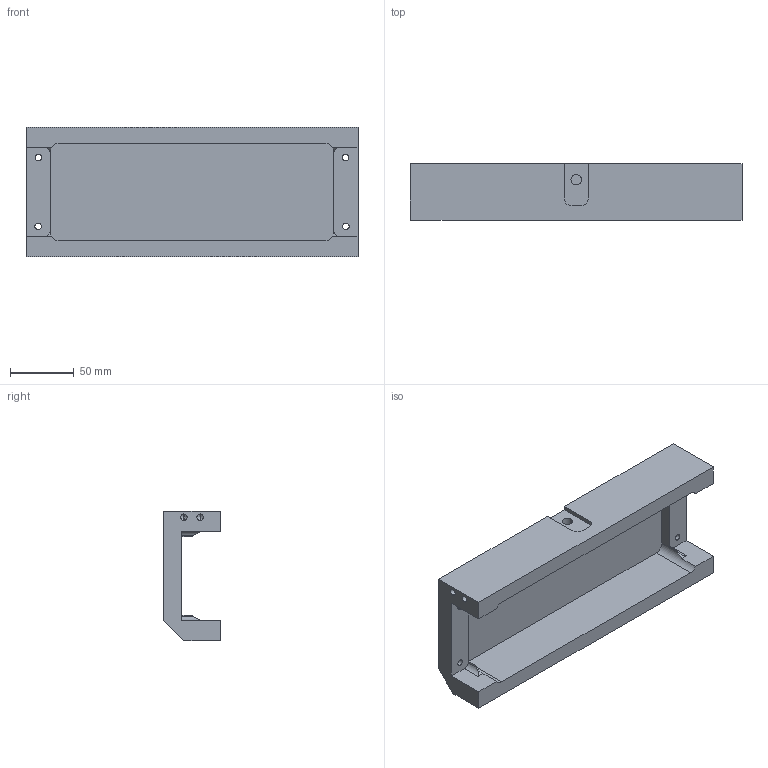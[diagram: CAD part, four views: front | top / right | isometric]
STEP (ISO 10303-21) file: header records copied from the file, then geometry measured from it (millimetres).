
FILE_DESCRIPTION (( 'STEP AP203' ), '1' );
FILE_NAME ('269-18-203.STEP', '2020-03-03T15:58:17', ( '' ), ( '' ), 'SwSTEP 2.0', 'SolidWorks 2017', '' );
FILE_SCHEMA (( 'CONFIG_CONTROL_DESIGN' ));
Length unit declared in the file: inch
Products named in the file (1): 269-18-203
Bounding box: 260.1 x 44.45 x 101.6 mm (x, y, z)
Volume: 413521.9 mm3; surface area: 100982.2 mm2
Topology: 1 solids, 1 shells, 63 faces, 175 edges, 110 vertices
Faces by surface type: cylinder 32, plane 23, cone 8
Entity records: 2140 total; most frequent: CARTESIAN_POINT 433, DIRECTION 343, ORIENTED_EDGE 334, EDGE_CURVE 167, AXIS2_PLACEMENT_3D 120, VERTEX_POINT 110, LINE 103, VECTOR 103
